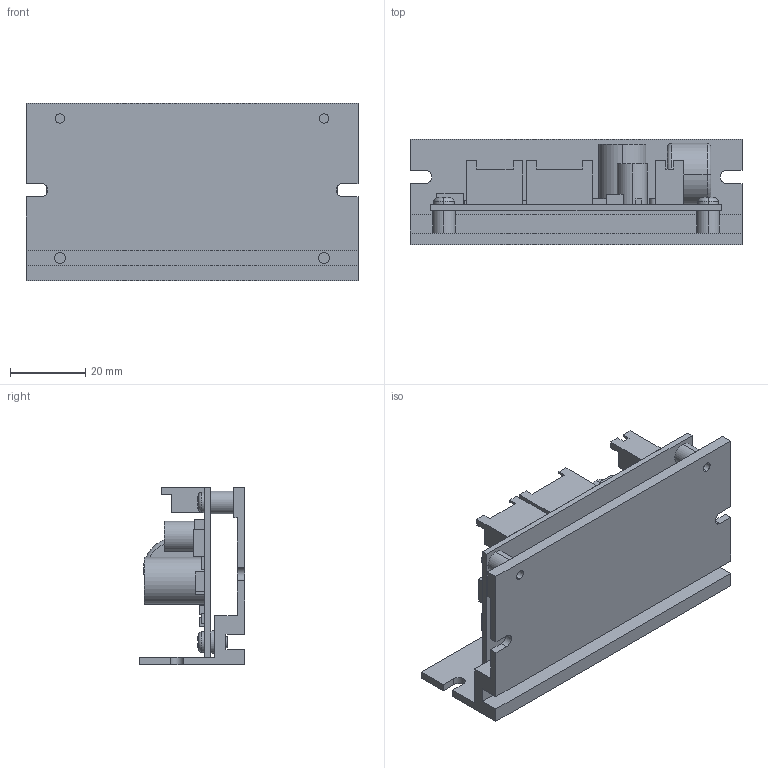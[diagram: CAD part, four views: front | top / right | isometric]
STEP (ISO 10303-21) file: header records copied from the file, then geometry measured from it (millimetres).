
FILE_DESCRIPTION (( 'STEP AP214' ), '1' );
FILE_NAME ('EXD5014MS-L.STEP', '2016-09-07T07:24:08', ( 'hoho' ), ( '' ), 'SwSTEP 2.0', 'SolidWorks 2013', '' );
FILE_SCHEMA (( 'AUTOMOTIVE_DESIGN' ));
Length unit declared in the file: millimetre
Products named in the file (8): 接頭-5pin; 接頭-6pin; NKJ3-6_NKJ3-6; VR-B02; 接頭-2pin; EXD5014MS-L-PCB; EXD5014MS-L-C1; EXD5014MS-L
Assembly tree (10 placements, depth 2):
  EXD5014MS-L
    EXD5014MS-L-C1
    EXD5014MS-L-PCB
    接頭-2pin
    VR-B02
    NKJ3-6_NKJ3-6  x4
    接頭-6pin
    接頭-5pin
Bounding box: 88 x 28 x 47 mm (x, y, z)
Volume: 29732.1 mm3; surface area: 28364 mm2
Topology: 10 solids, 10 shells, 723 faces, 1823 edges, 1202 vertices
Faces by surface type: plane 504, bspline 97, cylinder 74, torus 24, cone 16, sphere 8
Entity records: 28935 total; most frequent: CARTESIAN_POINT 9575, ORIENTED_EDGE 3154, DIRECTION 2599, EDGE_CURVE 1577, VECTOR 1235, LINE 1235, VERTEX_POINT 1046, EDGE_LOOP 721
